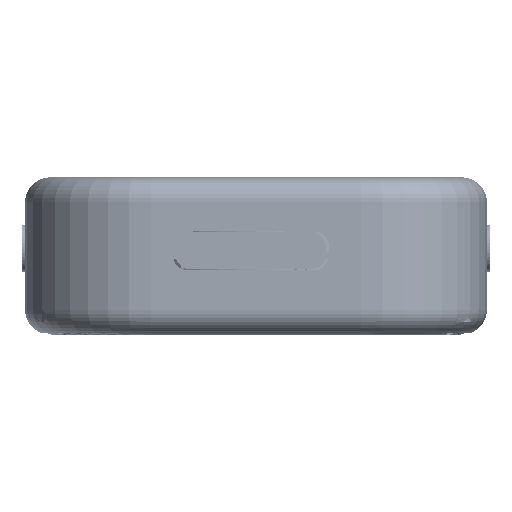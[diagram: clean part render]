
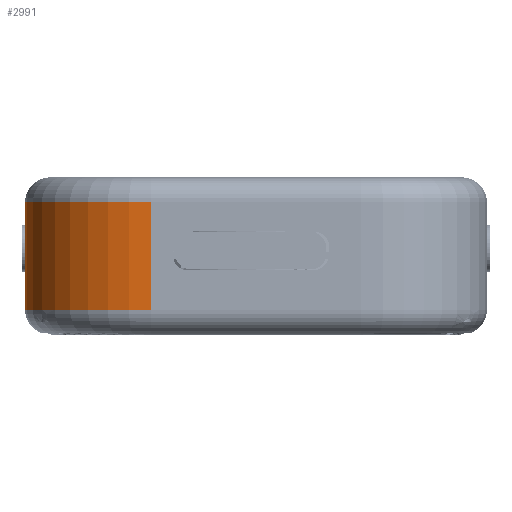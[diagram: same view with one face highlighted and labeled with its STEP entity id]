
A CAD part, front view. The second image highlights one B-rep face of the part: STEP entity #2991.
In plain terms, the highlighted cylindrical face has radius 24 mm (diameter 48 mm), a partial arc.
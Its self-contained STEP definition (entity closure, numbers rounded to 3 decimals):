
#397 = TOROIDAL_SURFACE('',#398,19.2,4.8);
#398 = AXIS2_PLACEMENT_3D('',#399,#400,#401);
#399 = CARTESIAN_POINT('',(-20.,-44.,-10.2));
#400 = DIRECTION('',(-0.,-0.,-1.));
#401 = DIRECTION('',(0.,-1.,0.));
#1202 = VERTEX_POINT('',#1203);
#1203 = CARTESIAN_POINT('',(-20.,-68.,-10.2));
#1228 = EDGE_CURVE('',#1202,#1229,#1231,.T.);
#1229 = VERTEX_POINT('',#1230);
#1230 = CARTESIAN_POINT('',(-44.,-44.,-10.2));
#1231 = SURFACE_CURVE('',#1232,(#1237,#1244),.PCURVE_S1.);
#1232 = CIRCLE('',#1233,24.);
#1233 = AXIS2_PLACEMENT_3D('',#1234,#1235,#1236);
#1234 = CARTESIAN_POINT('',(-20.,-44.,-10.2));
#1235 = DIRECTION('',(-0.,0.,-1.));
#1236 = DIRECTION('',(0.,-1.,0.));
#1237 = PCURVE('',#397,#1238);
#1238 = DEFINITIONAL_REPRESENTATION('',(#1239),#1243);
#1239 = LINE('',#1240,#1241);
#1240 = CARTESIAN_POINT('',(0.,0.));
#1241 = VECTOR('',#1242,1.);
#1242 = DIRECTION('',(1.,0.));
#1243 = ( GEOMETRIC_REPRESENTATION_CONTEXT(2) 
PARAMETRIC_REPRESENTATION_CONTEXT() REPRESENTATION_CONTEXT('2D SPACE',''
  ) );
#1244 = PCURVE('',#1245,#1250);
#1245 = CYLINDRICAL_SURFACE('',#1246,24.);
#1246 = AXIS2_PLACEMENT_3D('',#1247,#1248,#1249);
#1247 = CARTESIAN_POINT('',(-20.,-44.,-15.));
#1248 = DIRECTION('',(0.,0.,1.));
#1249 = DIRECTION('',(-1.,-0.,0.));
#1250 = DEFINITIONAL_REPRESENTATION('',(#1251),#1255);
#1251 = LINE('',#1252,#1253);
#1252 = CARTESIAN_POINT('',(1.571,4.8));
#1253 = VECTOR('',#1254,1.);
#1254 = DIRECTION('',(-1.,-0.));
#1255 = ( GEOMETRIC_REPRESENTATION_CONTEXT(2) 
PARAMETRIC_REPRESENTATION_CONTEXT() REPRESENTATION_CONTEXT('2D SPACE',''
  ) );
#2324 = PLANE('',#2325);
#2325 = AXIS2_PLACEMENT_3D('',#2326,#2327,#2328);
#2326 = CARTESIAN_POINT('',(-44.,-68.,-15.));
#2327 = DIRECTION('',(1.,0.,0.));
#2328 = DIRECTION('',(0.,0.,1.));
#2953 = PLANE('',#2954);
#2954 = AXIS2_PLACEMENT_3D('',#2955,#2956,#2957);
#2955 = CARTESIAN_POINT('',(-44.,-68.,-15.));
#2956 = DIRECTION('',(0.,1.,0.));
#2957 = DIRECTION('',(0.,0.,1.));
#2991 = ADVANCED_FACE('',(#2992),#1245,.T.);
#2992 = FACE_BOUND('',#2993,.T.);
#2993 = EDGE_LOOP('',(#2994,#3017,#3018,#3041));
#2994 = ORIENTED_EDGE('',*,*,#2995,.F.);
#2995 = EDGE_CURVE('',#1229,#2996,#2998,.T.);
#2996 = VERTEX_POINT('',#2997);
#2997 = CARTESIAN_POINT('',(-44.,-44.,10.2));
#2998 = SURFACE_CURVE('',#2999,(#3003,#3010),.PCURVE_S1.);
#2999 = LINE('',#3000,#3001);
#3000 = CARTESIAN_POINT('',(-44.,-44.,-15.));
#3001 = VECTOR('',#3002,1.);
#3002 = DIRECTION('',(0.,0.,1.));
#3003 = PCURVE('',#1245,#3004);
#3004 = DEFINITIONAL_REPRESENTATION('',(#3005),#3009);
#3005 = LINE('',#3006,#3007);
#3006 = CARTESIAN_POINT('',(0.,0.));
#3007 = VECTOR('',#3008,1.);
#3008 = DIRECTION('',(0.,1.));
#3009 = ( GEOMETRIC_REPRESENTATION_CONTEXT(2) 
PARAMETRIC_REPRESENTATION_CONTEXT() REPRESENTATION_CONTEXT('2D SPACE',''
  ) );
#3010 = PCURVE('',#2324,#3011);
#3011 = DEFINITIONAL_REPRESENTATION('',(#3012),#3016);
#3012 = LINE('',#3013,#3014);
#3013 = CARTESIAN_POINT('',(0.,-24.));
#3014 = VECTOR('',#3015,1.);
#3015 = DIRECTION('',(1.,0.));
#3016 = ( GEOMETRIC_REPRESENTATION_CONTEXT(2) 
PARAMETRIC_REPRESENTATION_CONTEXT() REPRESENTATION_CONTEXT('2D SPACE',''
  ) );
#3017 = ORIENTED_EDGE('',*,*,#1228,.F.);
#3018 = ORIENTED_EDGE('',*,*,#3019,.T.);
#3019 = EDGE_CURVE('',#1202,#3020,#3022,.T.);
#3020 = VERTEX_POINT('',#3021);
#3021 = CARTESIAN_POINT('',(-20.,-68.,10.2));
#3022 = SURFACE_CURVE('',#3023,(#3027,#3034),.PCURVE_S1.);
#3023 = LINE('',#3024,#3025);
#3024 = CARTESIAN_POINT('',(-20.,-68.,-15.));
#3025 = VECTOR('',#3026,1.);
#3026 = DIRECTION('',(0.,0.,1.));
#3027 = PCURVE('',#1245,#3028);
#3028 = DEFINITIONAL_REPRESENTATION('',(#3029),#3033);
#3029 = LINE('',#3030,#3031);
#3030 = CARTESIAN_POINT('',(1.571,0.));
#3031 = VECTOR('',#3032,1.);
#3032 = DIRECTION('',(0.,1.));
#3033 = ( GEOMETRIC_REPRESENTATION_CONTEXT(2) 
PARAMETRIC_REPRESENTATION_CONTEXT() REPRESENTATION_CONTEXT('2D SPACE',''
  ) );
#3034 = PCURVE('',#2953,#3035);
#3035 = DEFINITIONAL_REPRESENTATION('',(#3036),#3040);
#3036 = LINE('',#3037,#3038);
#3037 = CARTESIAN_POINT('',(0.,24.));
#3038 = VECTOR('',#3039,1.);
#3039 = DIRECTION('',(1.,0.));
#3040 = ( GEOMETRIC_REPRESENTATION_CONTEXT(2) 
PARAMETRIC_REPRESENTATION_CONTEXT() REPRESENTATION_CONTEXT('2D SPACE',''
  ) );
#3041 = ORIENTED_EDGE('',*,*,#3042,.T.);
#3042 = EDGE_CURVE('',#3020,#2996,#3043,.T.);
#3043 = SURFACE_CURVE('',#3044,(#3049,#3056),.PCURVE_S1.);
#3044 = CIRCLE('',#3045,24.);
#3045 = AXIS2_PLACEMENT_3D('',#3046,#3047,#3048);
#3046 = CARTESIAN_POINT('',(-20.,-44.,10.2));
#3047 = DIRECTION('',(-0.,0.,-1.));
#3048 = DIRECTION('',(0.,-1.,0.));
#3049 = PCURVE('',#1245,#3050);
#3050 = DEFINITIONAL_REPRESENTATION('',(#3051),#3055);
#3051 = LINE('',#3052,#3053);
#3052 = CARTESIAN_POINT('',(1.571,25.2));
#3053 = VECTOR('',#3054,1.);
#3054 = DIRECTION('',(-1.,-0.));
#3055 = ( GEOMETRIC_REPRESENTATION_CONTEXT(2) 
PARAMETRIC_REPRESENTATION_CONTEXT() REPRESENTATION_CONTEXT('2D SPACE',''
  ) );
#3056 = PCURVE('',#3057,#3062);
#3057 = TOROIDAL_SURFACE('',#3058,19.2,4.8);
#3058 = AXIS2_PLACEMENT_3D('',#3059,#3060,#3061);
#3059 = CARTESIAN_POINT('',(-20.,-44.,10.2));
#3060 = DIRECTION('',(0.,0.,1.));
#3061 = DIRECTION('',(0.,-1.,0.));
#3062 = DEFINITIONAL_REPRESENTATION('',(#3063),#3067);
#3063 = LINE('',#3064,#3065);
#3064 = CARTESIAN_POINT('',(-0.,0.));
#3065 = VECTOR('',#3066,1.);
#3066 = DIRECTION('',(-1.,0.));
#3067 = ( GEOMETRIC_REPRESENTATION_CONTEXT(2) 
PARAMETRIC_REPRESENTATION_CONTEXT() REPRESENTATION_CONTEXT('2D SPACE',''
  ) );
